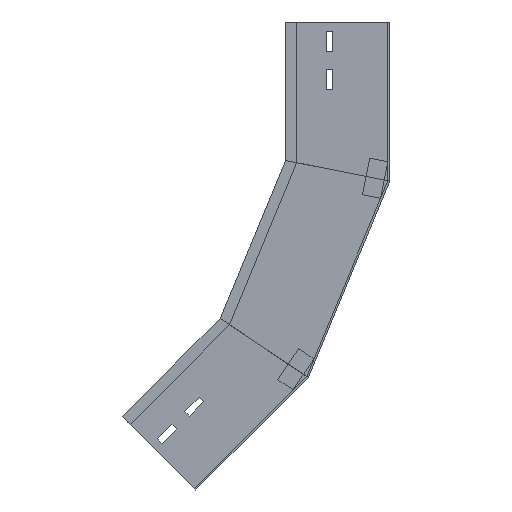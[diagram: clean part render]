
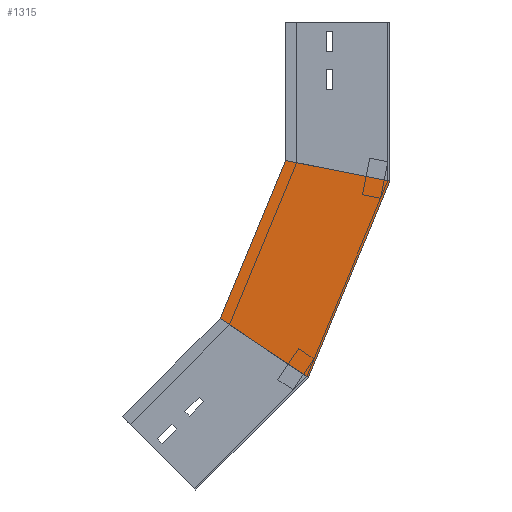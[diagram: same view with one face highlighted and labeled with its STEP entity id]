
A CAD part, left-side view. The second image highlights one B-rep face of the part: STEP entity #1315.
In plain terms, the highlighted planar face has unit normal (-1, 0, 0) as drawn and (1, 0, 0) by its records, which use the part's own axes.
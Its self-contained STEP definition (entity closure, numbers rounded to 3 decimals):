
#74 = VERTEX_POINT ( 'NONE', #628 ) ;
#120 = VECTOR ( 'NONE', #424, 1000. ) ;
#132 = EDGE_CURVE ( 'NONE', #907, #187, #1491, .T. ) ;
#182 = CARTESIAN_POINT ( 'NONE',  ( 0., 32.93, -165.55 ) ) ;
#187 = VERTEX_POINT ( 'NONE', #468 ) ;
#261 = LINE ( 'NONE', #1162, #1022 ) ;
#324 = EDGE_CURVE ( 'NONE', #74, #187, #1435, .T. ) ;
#421 = DIRECTION ( 'NONE',  ( 0., 0., 1. ) ) ;
#424 = DIRECTION ( 'NONE',  ( 0., -0.981, -0.195 ) ) ;
#435 = FACE_OUTER_BOUND ( 'NONE', #1291, .T. ) ;
#468 = CARTESIAN_POINT ( 'NONE',  ( 0., 88.017, -384.592 ) ) ;
#514 = AXIS2_PLACEMENT_3D ( 'NONE', #572, #1029, #421 ) ;
#572 = CARTESIAN_POINT ( 'NONE',  ( 0., 0., -172.1 ) ) ;
#619 = EDGE_CURVE ( 'NONE', #984, #74, #261, .T. ) ;
#628 = CARTESIAN_POINT ( 'NONE',  ( 0., 183.39, -320.866 ) ) ;
#680 = ORIENTED_EDGE ( 'NONE', *, *, #132, .T. ) ;
#898 = CARTESIAN_POINT ( 'NONE',  ( 0., 0., -172.1 ) ) ;
#907 = VERTEX_POINT ( 'NONE', #898 ) ;
#931 = DIRECTION ( 'NONE',  ( 0., 0.383, -0.924 ) ) ;
#984 = VERTEX_POINT ( 'NONE', #1148 ) ;
#1022 = VECTOR ( 'NONE', #1394, 1000. ) ;
#1029 = DIRECTION ( 'NONE',  ( -1., 0., 0. ) ) ;
#1037 = ORIENTED_EDGE ( 'NONE', *, *, #324, .F. ) ;
#1093 = LINE ( 'NONE', #182, #120 ) ;
#1148 = CARTESIAN_POINT ( 'NONE',  ( 0., 112.5, -149.722 ) ) ;
#1162 = CARTESIAN_POINT ( 'NONE',  ( 0., 103.936, -129.048 ) ) ;
#1169 = ORIENTED_EDGE ( 'NONE', *, *, #1485, .T. ) ;
#1265 = CARTESIAN_POINT ( 'NONE',  ( 0., 0., -172.1 ) ) ;
#1291 = EDGE_LOOP ( 'NONE', ( #1331, #1169, #680, #1037 ) ) ;
#1309 = VECTOR ( 'NONE', #931, 1000. ) ;
#1312 = DIRECTION ( 'NONE',  ( 0., -0.831, -0.556 ) ) ;
#1315 = ADVANCED_FACE ( 'NONE', ( #435 ), #1357, .F. ) ;
#1330 = CARTESIAN_POINT ( 'NONE',  ( 0., 125.326, -359.663 ) ) ;
#1331 = ORIENTED_EDGE ( 'NONE', *, *, #619, .F. ) ;
#1341 = VECTOR ( 'NONE', #1312, 1000. ) ;
#1357 = PLANE ( 'NONE',  #514 ) ;
#1394 = DIRECTION ( 'NONE',  ( 0., 0.383, -0.924 ) ) ;
#1435 = LINE ( 'NONE', #1330, #1341 ) ;
#1485 = EDGE_CURVE ( 'NONE', #984, #907, #1093, .T. ) ;
#1491 = LINE ( 'NONE', #1265, #1309 ) ;
